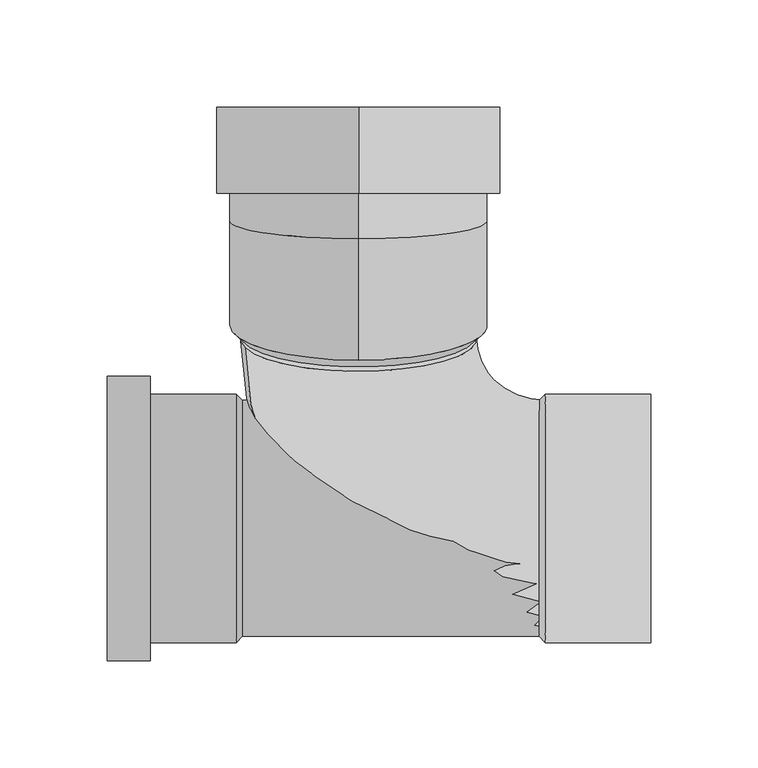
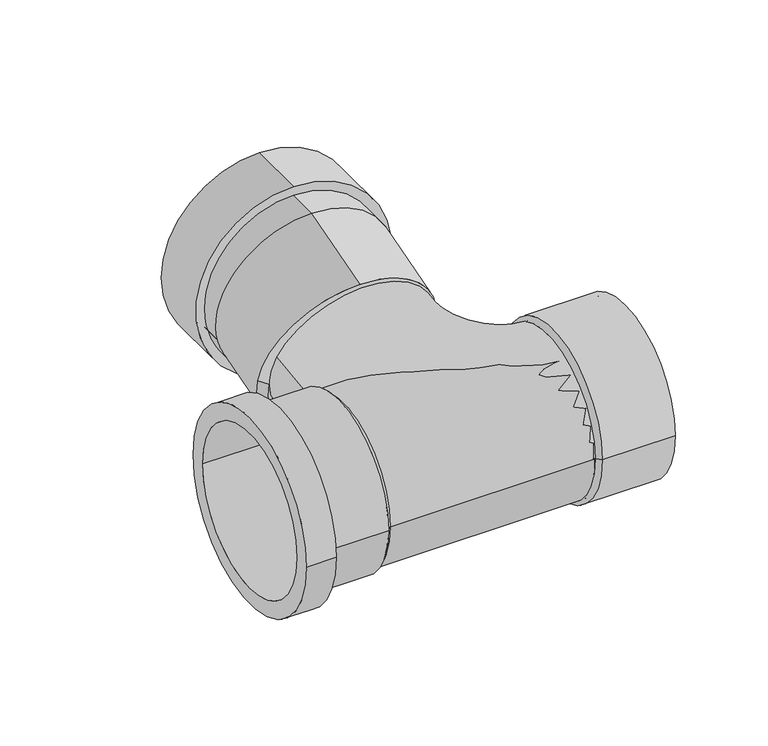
"""IFC4 building model written with IfcOpenShell, lengths in millimetres: pipe fitting geometry, Wavin_PipeAccessory_OsmaAccessoriesWcBranch : 16º."""

from ifc_helpers import new_model, si_unit, point, frame, origin, origin_2d, place, context, project, spatial, polyline, circle_curve, ellipse_curve, trimmed, segment, composite_curve, outline, extrude, source, transform, mapped, element, save
from ifc_brep_helpers import plane_surface, cylinder_surface, revolved_surface, advanced_brep


def pipe_fitting_c52e34fa(model_context):
    return source(origin(), model_context, "Body", "SolidModel", [
        advanced_brep(
        [(-54.1, -55.0, 0.0), (-54.1, 55.0, 0.0), (-117.0, 55.0, 0.0), (-117.0, -55.0, 0.0), (-97.0, -57.9, 0.0), (-97.0, 57.9, 0.0), (-57.0, 57.9, 0.0), (-57.0, -57.9, 0.0), (-117.0, -66.25, 0.0), (-117.0, 66.25, 0.0), (-97.0, 66.25, 0.0), (-97.0, -66.25, 0.0)],
        [
            (0, 1, circle_curve(frame((-54.1, 0.0, 0.0), z_axis=(1.0, 0.0, 0.0), x_axis=(0.0, 1.0000000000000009, 0.0)), 55.0)),
            (1, 2),
            (2, 3, circle_curve(frame((-117.0, 0.0, 0.0), z_axis=(-1.0, 0.0, 0.0), x_axis=(0.0, 1.0000000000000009, 0.0)), 55.0)),
            (3, 0),
            (4, 5, circle_curve(frame((-97.0, 0.0, 0.0), z_axis=(1.0, 0.0, 0.0), x_axis=(0.0, 1.0000000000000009, 0.0)), 57.9)),
            (5, 6),
            (6, 7, circle_curve(frame((-57.0, 0.0, 0.0), z_axis=(-1.0, 0.0, 0.0), x_axis=(0.0, 1.0000000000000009, 0.0)), 57.9)),
            (7, 4),
            (1, 0, circle_curve(frame((-54.1, 0.0, 0.0), z_axis=(1.0, 0.0, 0.0), x_axis=(0.0, -1.0000000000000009, 0.0)), 55.0)),
            (3, 2, circle_curve(frame((-117.0, 0.0, 0.0), z_axis=(-1.0, 0.0, 0.0), x_axis=(0.0, -1.0000000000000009, 0.0)), 55.0)),
            (5, 4, circle_curve(frame((-97.0, 0.0, 0.0), z_axis=(1.0, 0.0, 0.0), x_axis=(0.0, -1.0000000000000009, 0.0)), 57.9)),
            (7, 6, circle_curve(frame((-57.0, 0.0, 0.0), z_axis=(-1.0, 0.0, 0.0), x_axis=(0.0, -1.0000000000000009, 0.0)), 57.9)),
            (8, 9, circle_curve(frame((-117.0, 0.0, 0.0), z_axis=(1.0, 0.0, 0.0), x_axis=(0.0, 1.0000000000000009, 0.0)), 66.25)),
            (9, 10),
            (10, 11, circle_curve(frame((-97.0, 0.0, 0.0), z_axis=(-1.0, 0.0, 0.0), x_axis=(0.0, 1.0000000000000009, 0.0)), 66.25)),
            (11, 8),
            (10, 11, circle_curve(frame((-97.0, 0.0, 0.0), z_axis=(1.0, 0.0, 0.0), x_axis=(0.0, -1.0000000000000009, 0.0)), 66.25)),
            (9, 8, circle_curve(frame((-117.0, 0.0, 0.0), z_axis=(1.0, 0.0, 0.0), x_axis=(0.0, -1.0000000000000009, 0.0)), 66.25)),
            (6, 1),
            (0, 7),
        ],
        [
            revolved_surface(polyline([(-117.00000000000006, 55.00000000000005, 0.0), (-54.1, 55.00000000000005, 0.0)]), (-57.0, 0.0, 0.0), (-1.0000000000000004, 0.0, 0.0)),
            cylinder_surface(frame((-57.0, 0.0, 0.0), z_axis=(-1.0000000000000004, 0.0, 0.0), x_axis=(0.0, 1.0000000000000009, 0.0)), 57.9),
            revolved_surface(polyline([(-117.00000000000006, -55.00000000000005, 0.0), (-54.1, -55.00000000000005, 0.0)]), (-57.0, 0.0, 0.0), (-1.0000000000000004, 0.0, 0.0)),
            cylinder_surface(frame((-57.0, 0.0, 0.0), z_axis=(-1.0000000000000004, 0.0, 0.0), x_axis=(0.0, -1.0000000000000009, 0.0)), 57.9),
            cylinder_surface(frame((-57.0, 0.0, 0.0), z_axis=(-1.0000000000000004, 0.0, 0.0), x_axis=(0.0, 1.0000000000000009, 0.0)), 66.25),
            plane_surface(frame((-97.0, 0.0, 0.0), z_axis=(1.0, 0.0, 0.0), x_axis=(0.0, -1.0, 0.0))),
            cylinder_surface(frame((-57.0, 0.0, 0.0), z_axis=(-1.0000000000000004, 0.0, 0.0), x_axis=(0.0, -1.0000000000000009, 0.0)), 66.25),
            plane_surface(frame((-117.0, 0.0, 0.0), z_axis=(-1.0, 0.0, 0.0), x_axis=(0.0, -1.0, 0.0))),
            revolved_surface(polyline([(-54.1, 55.0, 0.0), (-57.0, 57.9, 0.0)]), (-57.0, 0.0, 0.0), (-1.0000000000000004, 0.0, 0.0)),
            revolved_surface(polyline([(-54.1, -55.0, 0.0), (-57.0, -57.9, 0.0)]), (-57.0, 0.0, 0.0), (-1.0000000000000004, 0.0, 0.0)),
        ],
        [
            (0, [[1, 2, 3, 4]]),
            (1, [[5, 6, 7, 8]]),
            (2, [[9, -4, 10, -2]]),
            (3, [[11, -8, 12, -6]]),
            (4, [[13, 14, 15, 16]]),
            (5, [[17, -15], [-11, -5]]),
            (6, [[18, -16, -17, -14]]),
            (7, [[-18, -13], [-10, -3]]),
            (8, [[-7, 19, -1, 20]]),
            (9, [[-12, -20, -9, -19]]),
        ],
    ),
        advanced_brep(
        [(87.0, 57.9, 0.0), (87.0, -57.9, 0.0), (84.1, -55.0, 0.0), (84.1, 55.0, 0.0), (136.0, 57.9, 0.0), (136.0, -57.9, 0.0), (136.0, -55.0, 0.0), (136.0, 55.0, 0.0)],
        [
            (0, 1, circle_curve(frame((87.0, 0.0, 0.0), z_axis=(-1.0, 0.0, 0.0), x_axis=(0.0, -1.0, 0.0)), 57.9)),
            (1, 2),
            (2, 3, circle_curve(frame((84.1, 0.0, 0.0), z_axis=(1.0, 0.0, 0.0), x_axis=(0.0, -1.0, 0.0)), 55.0)),
            (3, 0),
            (4, 5, circle_curve(frame((136.0, 0.0, 0.0), z_axis=(-1.0, 0.0, 0.0), x_axis=(0.0, -1.0, 0.0)), 57.9)),
            (5, 1),
            (0, 4),
            (2, 6),
            (6, 7, circle_curve(frame((136.0, 0.0, 0.0), z_axis=(1.0, 0.0, 0.0), x_axis=(0.0, -1.0, 0.0)), 55.0)),
            (7, 3),
            (1, 0, circle_curve(frame((87.0, 0.0, 0.0), z_axis=(-1.0, 0.0, 0.0), x_axis=(0.0, 1.0, 0.0)), 57.9)),
            (3, 2, circle_curve(frame((84.1, 0.0, 0.0), z_axis=(1.0, 0.0, 0.0), x_axis=(0.0, 1.0, 0.0)), 55.0)),
            (5, 4, circle_curve(frame((136.0, 0.0, 0.0), z_axis=(-1.0, 0.0, 0.0), x_axis=(0.0, 1.0, 0.0)), 57.9)),
            (6, 7, circle_curve(frame((136.0, 0.0, 0.0), z_axis=(-1.0, 0.0, 0.0), x_axis=(0.0, 1.0, 0.0)), 55.0)),
        ],
        [
            revolved_surface(polyline([(84.1, -55.0, 0.0), (87.0, -57.9, 0.0)]), (87.0, 0.0, 0.0), (1.0, 0.0, 0.0)),
            cylinder_surface(frame((87.0, 0.0, 0.0), z_axis=(1.0, 0.0, 0.0), x_axis=(0.0, -1.0, 0.0)), 57.9),
            revolved_surface(polyline([(136.0, -55.0, 0.0), (84.1, -55.0, 0.0)]), (87.0, 0.0, 0.0), (1.0, 0.0, 0.0)),
            revolved_surface(polyline([(84.1, 55.0, 0.0), (87.0, 57.9, 0.0)]), (87.0, 0.0, 0.0), (1.0, 0.0, 0.0)),
            cylinder_surface(frame((87.0, 0.0, 0.0), z_axis=(1.0, 0.0, 0.0), x_axis=(0.0, 1.0, 0.0)), 57.9),
            plane_surface(frame((136.0, 0.0, 0.0), z_axis=(1.0, 0.0, 0.0), x_axis=(0.0, 1.0, 0.0))),
            revolved_surface(polyline([(136.0, 55.0, 0.0), (84.1, 55.0, 0.0)]), (87.0, 0.0, 0.0), (1.0, 0.0, 0.0)),
        ],
        [
            (0, [[1, 2, 3, 4]]),
            (1, [[5, 6, -1, 7]]),
            (2, [[-3, 8, 9, 10]]),
            (3, [[11, -4, 12, -2]]),
            (4, [[13, -7, -11, -6]]),
            (5, [[-13, -5], [14, -9]]),
            (6, [[-12, -10, -14, -8]]),
        ],
    ),
        advanced_brep(
        [(87.0, -55.0, 0.0), (87.0, 55.0, 0.0), (52.8693933, 87.8084449, 9.4076702), (-52.8693933, 79.4510902, 38.5532297)],
        [
            (0, 1, circle_curve(frame((87.0, 0.0, 0.0), z_axis=(1.0, 0.0, 0.0), x_axis=(0.0, 1.0, 0.0)), 55.0)),
            (1, 0, circle_curve(frame((87.0, 0.0, 0.0), z_axis=(1.0, 0.0, 0.0), x_axis=(0.0, 1.0, 0.0)), 55.0)),
            (2, 1, circle_curve(frame((87.0, 87.8084449, 9.4076702), z_axis=(0.0, -0.2756373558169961, 0.9612616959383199), x_axis=(0.0, -0.9612616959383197, -0.27563735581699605)), 34.1306067)),
            (0, 3, circle_curve(frame((87.0, 79.4510902, 38.5532297), z_axis=(0.0, 0.2756373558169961, -0.9612616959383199), x_axis=(0.0, -0.9612616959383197, -0.27563735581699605)), 139.8693933)),
            (3, 2, circle_curve(frame((0.0, 83.6297675, 23.98045), z_axis=(0.0, -0.9612616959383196, -0.2756373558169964), x_axis=(0.9612616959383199, 0.07597595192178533, -0.2649596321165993)), 55.0)),
            (2, 3, circle_curve(frame((0.0, 83.6297675, 23.98045), z_axis=(0.0, -0.9612616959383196, -0.2756373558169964), x_axis=(0.9612616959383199, 0.07597595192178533, -0.2649596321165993)), 55.0)),
        ],
        [
            plane_surface(frame((87.0, 97.4116353, -24.0826348), z_axis=(1.0, 0.0, 0.0), x_axis=(0.0, -0.9612616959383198, -0.2756373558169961))),
            revolved_surface(trimmed(ellipse_curve(frame((87.0, 0.0, 0.0), z_axis=(1.0, 0.0, 0.0), x_axis=(0.0, 1.0, 0.0)), 55.0, 55.0), [point((87.0, -55.0, 0.0))], [point((87.0, 55.0, 0.0))], True, "CARTESIAN"), (87.0, 97.4116353, -24.0826348), (0.0, 0.27563735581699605, -0.9612616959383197)),
            revolved_surface(trimmed(ellipse_curve(frame((87.0, 0.0, 0.0), z_axis=(1.0, 0.0, 0.0), x_axis=(0.0, 1.0, 0.0)), 55.0, 55.0), [point((87.0, 55.0, 0.0))], [point((87.0, -55.0, 0.0))], True, "CARTESIAN"), (87.0, 97.4116353, -24.0826348), (0.0, 0.27563735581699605, -0.9612616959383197)),
            plane_surface(frame((87.0, 97.4116353, -24.0826348), z_axis=(0.0, 0.9612616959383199, 0.27563735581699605), x_axis=(-1.0, 0.0, 0.0))),
        ],
        [
            (0, [[1, 2]]),
            (1, [[3, -1, 4, 5]]),
            (2, [[-4, -2, -3, 6]]),
            (3, [[-6, -5]]),
        ],
    ),
        advanced_brep(
        [(0.0, 191.3901418, -34.0), (0.0, 191.3901418, 98.0), (0.0, 191.3901418, 88.5), (0.0, 191.3901418, -24.5), (0.0, 130.2734888, 92.0), (0.0, 147.138389, -28.0), (0.0, 151.3901418, -28.0), (0.0, 151.3901418, 92.0), (0.0, 73.648421, 75.7630231), (60.0, 90.1866623, 18.0873213), (0.0, 106.7249037, -39.5883804), (-60.0, 90.1866623, 18.0873213), (0.0, 151.3901418, -34.0), (0.0, 151.3901418, 98.0), (0.0, 121.3901418, 88.5), (0.0, 121.3901418, -24.5), (55.0, 85.3803538, 16.7091345), (-55.0, 85.3803538, 16.7091345)],
        [
            (0, 1, circle_curve(frame((0.0, 191.3901418, 32.0), z_axis=(0.0, 1.0, 0.0), x_axis=(0.0, 0.0, 1.0)), 66.0)),
            (1, 0, circle_curve(frame((0.0, 191.3901418, 32.0), z_axis=(0.0, 1.0, 0.0), x_axis=(0.0, 0.0, 1.0)), 66.0)),
            (2, 3, circle_curve(frame((0.0, 191.3901418, 32.0), z_axis=(0.0, -1.0, 0.0), x_axis=(0.0, 0.0, -1.0)), 56.5)),
            (3, 2, circle_curve(frame((0.0, 191.3901418, 32.0), z_axis=(0.0, -1.0, 0.0), x_axis=(0.0, 0.0, -1.0)), 56.5)),
            (4, 5, ellipse_curve(frame((0.0, 138.7059389, 32.0), z_axis=(0.0, 0.9902680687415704, 0.13917310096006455), x_axis=(0.0, 0.13917310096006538, -0.9902680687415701)), 60.5896544, 60.0)),
            (5, 6),
            (6, 7, circle_curve(frame((0.0, 151.3901418, 32.0), z_axis=(0.0, -1.0, 0.0), x_axis=(0.0, 0.0, -1.0)), 60.0)),
            (7, 4),
            (5, 4, ellipse_curve(frame((0.0, 138.7059389, 32.0), z_axis=(0.0, 0.9902680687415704, 0.13917310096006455), x_axis=(0.0, 0.13917310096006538, -0.9902680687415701)), 60.5896544, 60.0)),
            (7, 6, circle_curve(frame((0.0, 151.3901418, 32.0), z_axis=(0.0, -1.0, 0.0), x_axis=(0.0, 0.0, -1.0)), 60.0)),
            (4, 8),
            (8, 9, circle_curve(frame((0.0, 90.1866623, 18.0873213), z_axis=(0.0, 0.9612616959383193, 0.2756373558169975), x_axis=(0.0, 0.2756373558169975, -0.9612616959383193)), 60.0)),
            (9, 10, circle_curve(frame((0.0, 90.1866623, 18.0873213), z_axis=(0.0, 0.9612616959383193, 0.2756373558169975), x_axis=(0.0, 0.2756373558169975, -0.9612616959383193)), 60.0)),
            (10, 5),
            (10, 11, circle_curve(frame((0.0, 90.1866623, 18.0873213), z_axis=(0.0, 0.9612616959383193, 0.2756373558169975), x_axis=(0.0, 0.2756373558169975, -0.9612616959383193)), 60.0)),
            (11, 8, circle_curve(frame((0.0, 90.1866623, 18.0873213), z_axis=(0.0, 0.9612616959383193, 0.2756373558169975), x_axis=(0.0, 0.2756373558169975, -0.9612616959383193)), 60.0)),
            (12, 13, circle_curve(frame((0.0, 151.3901418, 32.0), z_axis=(0.0, -1.0, 0.0), x_axis=(0.0, 0.0, 1.0)), 66.0)),
            (13, 12, circle_curve(frame((0.0, 151.3901418, 32.0), z_axis=(0.0, -1.0, 0.0), x_axis=(0.0, 0.0, 1.0)), 66.0)),
            (13, 1),
            (0, 12),
            (14, 15, circle_curve(frame((0.0, 121.3901418, 32.0), z_axis=(0.0, 1.0, 0.0), x_axis=(0.0, 0.0, -1.0)), 56.5)),
            (15, 14, circle_curve(frame((0.0, 121.3901418, 32.0), z_axis=(0.0, 1.0, 0.0), x_axis=(0.0, 0.0, -1.0)), 56.5)),
            (15, 3),
            (2, 14),
            (9, 16),
            (16, 17, circle_curve(frame((0.0, 85.3803538, 16.7091345), z_axis=(0.0, 0.9612616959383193, 0.27563735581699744), x_axis=(-1.0, 0.0, 0.0)), 55.0)),
            (17, 11),
            (17, 16, circle_curve(frame((0.0, 85.3803538, 16.7091345), z_axis=(0.0, 0.9612616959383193, 0.27563735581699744), x_axis=(1.0, 0.0, 0.0)), 55.0)),
        ],
        [
            plane_surface(frame((0.0, 191.3901418, 32.0), z_axis=(0.0, 1.0, 0.0), x_axis=(1.0, 0.0, 0.0))),
            cylinder_surface(frame((0.0, 191.3901418, 32.0), z_axis=(0.0, 1.0, 0.0), x_axis=(0.0, 0.0, -1.0)), 60.0),
            cylinder_surface(frame((0.0, 138.7059389, 32.0), z_axis=(0.0, 0.9612616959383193, 0.2756373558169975), x_axis=(0.0, 0.2756373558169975, -0.9612616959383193)), 60.0),
            plane_surface(frame((0.0, 151.3901418, 98.0), z_axis=(0.0, -1.0, 0.0), x_axis=(-1.0, 0.0, 0.0))),
            cylinder_surface(frame((0.0, 151.3901418, 32.0), z_axis=(0.0, 1.0, 0.0), x_axis=(0.0, 0.0, 1.0)), 66.0),
            plane_surface(frame((0.0, 121.3901418, -24.5), z_axis=(0.0, 1.0, 0.0), x_axis=(1.0, 0.0, 0.0))),
            revolved_surface(polyline([(0.0, 121.3901418, -24.5), (0.0, 191.3901418, -24.5)]), (0.0, 191.3901418, 32.0), (0.0, -1.0, 0.0)),
            revolved_surface(polyline([(-60.0, 90.1866623, 18.0873213), (-55.0, 85.3803538, 16.7091345)]), (0.0, 85.3803538, 16.7091345), (0.0, -0.9612616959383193, -0.27563735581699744)),
            revolved_surface(polyline([(60.0, 90.1866623, 18.0873213), (55.0, 85.3803538, 16.7091345)]), (0.0, 85.3803538, 16.7091345), (0.0, -0.9612616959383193, -0.27563735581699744)),
            plane_surface(frame((0.0, 85.3803538, 16.7091345), z_axis=(0.0, -0.9612616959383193, -0.2756373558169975), x_axis=(1.0, 0.0, 0.0))),
        ],
        [
            (0, [[1, 2], [3, 4]]),
            (1, [[5, 6, 7, 8]]),
            (1, [[9, -8, 10, -6]]),
            (2, [[-5, 11, 12, 13, 14]]),
            (2, [[-9, -14, 15, 16, -11]]),
            (3, [[17, 18], [-7, -10]]),
            (4, [[-18, 19, -1, 20]]),
            (4, [[-17, -20, -2, -19]]),
            (5, [[21, 22]]),
            (6, [[-22, 23, -3, 24]]),
            (6, [[-21, -24, -4, -23]]),
            (7, [[25, 26, 27, -15, -13]]),
            (8, [[-25, -12, -16, -27, 28]]),
            (9, [[-26, -28]]),
        ],
    ),
        extrude(outline(composite_curve([segment(trimmed(circle_curve(origin_2d(), 55.0), [point((-55.0, 0.0))], [point((55.0, 0.0))], False, "CARTESIAN"), True, "CONTINUOUS"), segment(trimmed(circle_curve(origin_2d(), 55.0), [point((55.0, 0.0))], [point((-55.0, 0.0))], False, "CARTESIAN"), True, "CONTINUOUS")], self_intersect=False)), frame((-57.0, 0.0, 0.0), z_axis=(1.0, 0.0, 0.0), x_axis=(0.0, 1.0, 0.0)), (0.0, 0.0, 1.0), 144.0),
    ])


if __name__ == "__main__":
    model = new_model("IFC4")
    model_context = context("Model", 3, world=origin())
    ifc_project = project(units=[si_unit("LENGTHUNIT", "METRE", prefix="MILLI")], contexts=[model_context])
    site = spatial("IfcSite", under=ifc_project)
    building = spatial("IfcBuilding", under=site)
    placement = place(None, origin())
    pipe_fitting_shape = pipe_fitting_c52e34fa(model_context)
    element("IfcPipeFitting", 1, ObjectType="Wavin_PipeAccessory_OsmaAccessoriesWcBranch : 16º", at=placement, inside=building, context=model_context, shape_type="MappedRepresentation", body=[
        mapped(pipe_fitting_shape, transform((0.0, 0.0, 0.0), x_axis=(1.0, 0.0, 0.0), y_axis=(0.0, 1.0, 0.0), z_axis=(0.0, 0.0, 1.0))),
    ])
    save(model, "model.ifc")
